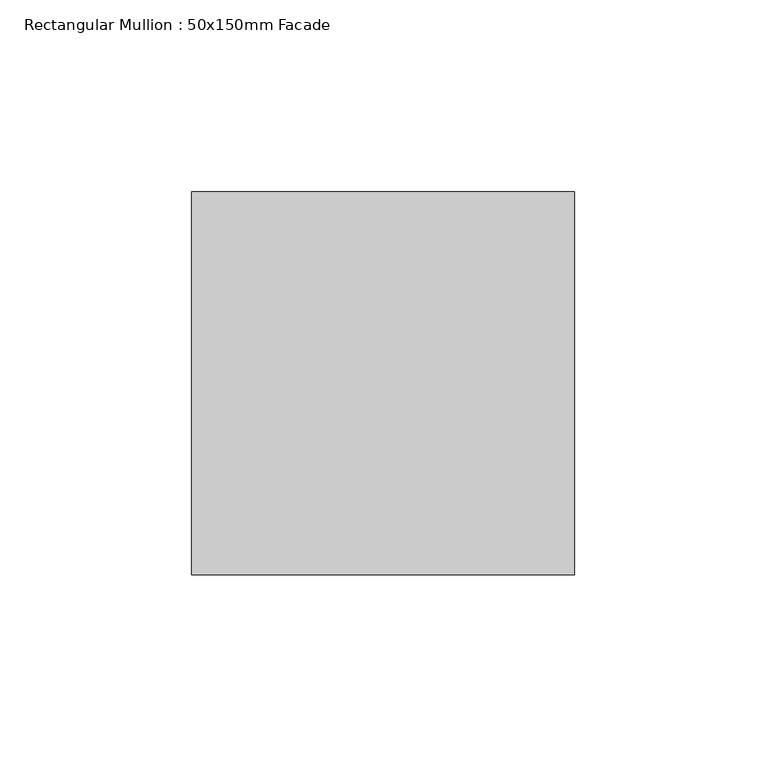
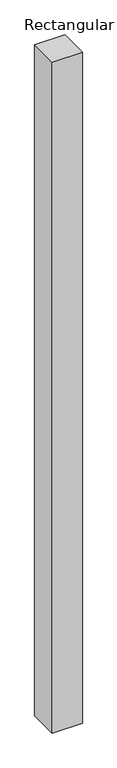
"""IFC4 building model written with IfcOpenShell, lengths in millimetres: member geometry, Rectangular Mullion : 50x150mm Facade."""

from ifc_helpers import new_model, si_unit, frame, origin, place, context, project, spatial, polyline, outline, extrude, source, transform, mapped, element, save


def rectangular_mullion_50x150mm_facade_da269e3a(model_context):
    return source(origin(), model_context, "Body", "SweptSolid", [
        extrude(outline(polyline([(50.0, 50.0), (50.0, -50.0), (-50.0, -50.0), (-50.0, 50.0), (50.0, 50.0)])), frame((0.0, 0.0, -2350.0), z_axis=(0.0, 0.0, 1.0), x_axis=(1.0, 0.0, 0.0)), (0.0, 0.0, 1.0), 2350.0),
    ])


if __name__ == "__main__":
    model = new_model("IFC4")
    model_context = context("Model", 3, world=origin())
    ifc_project = project(units=[si_unit("LENGTHUNIT", "METRE", prefix="MILLI")], contexts=[model_context])
    site = spatial("IfcSite", under=ifc_project)
    building = spatial("IfcBuilding", under=site)
    placement = place(None, origin())
    rectangular_mullion_50x150mm_facade_shape = rectangular_mullion_50x150mm_facade_da269e3a(model_context)
    element("IfcMember", 1, ObjectType="Rectangular Mullion : 50x150mm Facade", at=placement, inside=building, context=model_context, shape_type="MappedRepresentation", body=[
        mapped(rectangular_mullion_50x150mm_facade_shape, transform((0.0, 0.0, 0.0), x_axis=(1.0, 0.0, 0.0), y_axis=(0.0, 1.0, 0.0), z_axis=(0.0, 0.0, 1.0))),
    ])
    save(model, "model.ifc")
